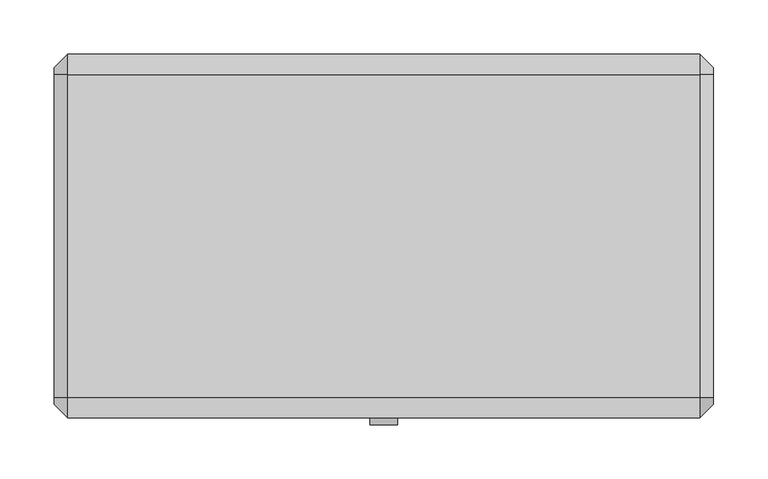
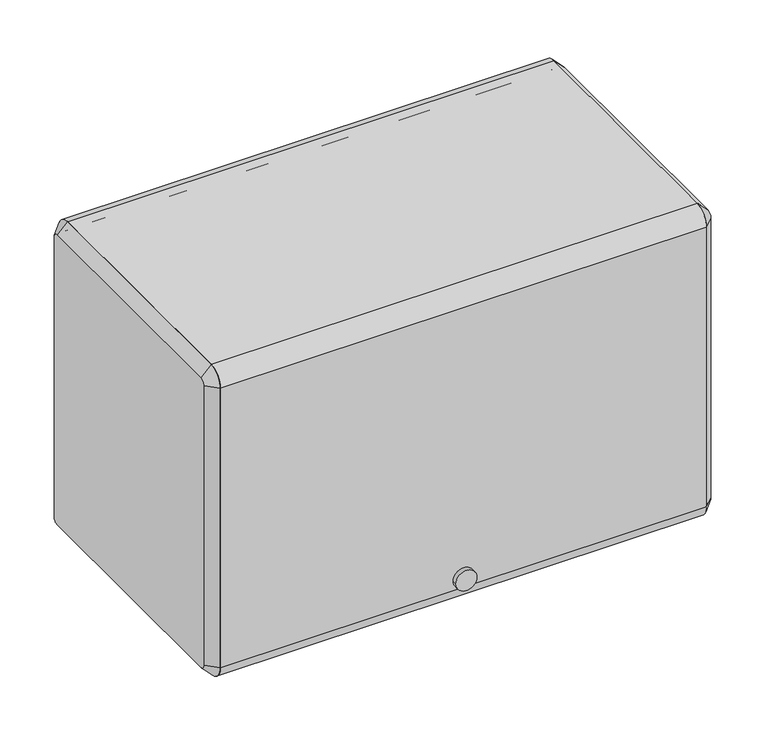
"""IFC4 building model written with IfcOpenShell, lengths in millimetres: furniture geometry."""

import ifcopenshell
import ifcopenshell.guid

model = None  # the IFC model being written
_history = None  # IfcOwnerHistory: only IFC2X3 demands one
_inside = {}  # id of a spatial element -> (the spatial element, [elements in it])
_under = {}  # id of a project, library or spatial element -> (it, [spatial elements below it])
_declared = {}  # id of a project -> (the project, [libraries it declares])
_typed = {}  # id of a type object -> (the type object, [elements of that type])
_made_of = {}  # id of a material, layer set ... -> (it, [elements and type objects made of it])


def new_model(schema):
    """Start an empty IFC model of exactly this schema.

    Asked for "IFC4X3", IfcOpenShell would pick the latest addendum, in which some entities
    have other attributes; the version numbers below select the first issue.
    IFC2X3 requires an IfcOwnerHistory on every rooted entity: one is made here for all.
    """
    global model, _history
    if schema == "IFC4X3":
        model = ifcopenshell.file(schema_version=(4, 3, 0, 0))
    else:
        model = ifcopenshell.file(schema=schema)
    _inside.clear()
    _under.clear()
    _declared.clear()
    _typed.clear()
    _made_of.clear()
    _history = None
    if model.schema == "IFC2X3":
        org = make("IfcOrganization", Name="unknown")
        user = make(
            "IfcPersonAndOrganization",
            ThePerson=make("IfcPerson", FamilyName="unknown"),
            TheOrganization=org,
        )
        app = make(
            "IfcApplication",
            ApplicationDeveloper=org,
            Version="unknown",
            ApplicationFullName="unknown",
            ApplicationIdentifier="unknown",
        )
        _history = make(
            "IfcOwnerHistory",
            OwningUser=user,
            OwningApplication=app,
            ChangeAction="ADDED",
            CreationDate=0,
        )
    return model


def make(cls, **values):
    """One entity of the class cls with the attributes given. An attribute that is None is left unset."""
    return model.create_entity(
        cls, **{name: value for name, value in values.items() if value is not None}
    )


def rooted(cls, **values):
    """An entity with a GlobalId (a new one), such as an element, a storey or a relation."""
    return make(cls, GlobalId=ifcopenshell.guid.new(), OwnerHistory=_history, **values)


def si_unit(unit_type, name, prefix=None):
    """IfcSIUnit, for example si_unit("LENGTHUNIT", "METRE", prefix="MILLI")."""
    return make("IfcSIUnit", UnitType=unit_type, Prefix=prefix, Name=name)


def assignment(units):
    """IfcUnitAssignment: the units of a project."""
    return None if units is None else make("IfcUnitAssignment", Units=units)


def point(xyz):
    """IfcCartesianPoint."""
    return None if xyz is None else make("IfcCartesianPoint", Coordinates=xyz)


def direction(xyz):
    """IfcDirection."""
    return None if xyz is None else make("IfcDirection", DirectionRatios=xyz)


def frame(location, z_axis=None, x_axis=None):
    """IfcAxis2Placement3D, a coordinate frame: its origin and axes. An axis left out is left unset."""
    return make(
        "IfcAxis2Placement3D",
        Location=point(location),
        Axis=direction(z_axis),
        RefDirection=direction(x_axis),
    )


def frame_2d(location, x_axis=None):
    """IfcAxis2Placement2D, a coordinate frame in the plane: its origin and x axis."""
    return make(
        "IfcAxis2Placement2D", Location=point(location), RefDirection=direction(x_axis)
    )


def origin():
    """The frame at (0, 0, 0) with its axes left unset."""
    return frame((0.0, 0.0, 0.0))


def place(relative_to, where):
    """IfcLocalPlacement: puts the frame where relative to a parent placement (None: the world)."""
    return make(
        "IfcLocalPlacement", PlacementRelTo=relative_to, RelativePlacement=where
    )


def context(
    kind, dimensions, precision=None, world=None, true_north=None, identifier=None
):
    """IfcGeometricRepresentationContext, for example the 3D "Model" context."""
    return make(
        "IfcGeometricRepresentationContext",
        ContextIdentifier=identifier,
        ContextType=kind,
        CoordinateSpaceDimension=dimensions,
        Precision=precision,
        WorldCoordinateSystem=world,
        TrueNorth=true_north,
    )


def project(units=None, contexts=None):
    """IfcProject with its units and contexts."""
    return rooted(
        "IfcProject",
        Name="project",
        RepresentationContexts=contexts,
        UnitsInContext=assignment(units),
    )


def spatial(cls, under=None, at=None, **own):
    """A site, building, storey or space (cls), placed at a placement, below another one or the project."""
    s = rooted(cls, ObjectPlacement=at, **own)
    if under is not None:
        _under.setdefault(under.id(), (under, []))[1].append(s)
    return s


def polyline(points):
    """IfcPolyline through the points."""
    return make("IfcPolyline", Points=[point(p) for p in points])


def circle_curve(where, radius):
    """IfcCircle in the frame where."""
    return make("IfcCircle", Position=where, Radius=radius)


def trimmed(basis, trim1, trim2, sense, master):
    """IfcTrimmedCurve: the piece of a basis curve between two trims."""
    return make(
        "IfcTrimmedCurve",
        BasisCurve=basis,
        Trim1=trim1,
        Trim2=trim2,
        SenseAgreement=sense,
        MasterRepresentation=master,
    )


def segment(curve, same_sense, transition):
    """IfcCompositeCurveSegment."""
    return make(
        "IfcCompositeCurveSegment",
        Transition=transition,
        SameSense=same_sense,
        ParentCurve=curve,
    )


def composite_curve(segments, self_intersect=None):
    """IfcCompositeCurve: segments joined end to end."""
    return make("IfcCompositeCurve", Segments=segments, SelfIntersect=self_intersect)


def outline(outer, holes=None, kind="AREA"):
    """IfcArbitraryClosedProfileDef: a profile drawn as a closed curve; with holes, ...WithVoids."""
    if holes is None:
        return make("IfcArbitraryClosedProfileDef", ProfileType=kind, OuterCurve=outer)
    return make(
        "IfcArbitraryProfileDefWithVoids",
        ProfileType=kind,
        OuterCurve=outer,
        InnerCurves=holes,
    )


def extrude(swept, where, along, depth):
    """IfcExtrudedAreaSolid: the profile swept, set in the frame where, extruded along a direction by depth."""
    return make(
        "IfcExtrudedAreaSolid",
        SweptArea=swept,
        Position=where,
        ExtrudedDirection=direction(along),
        Depth=depth,
    )


def shape(context_of_items, identifier, shape_type, items):
    """IfcShapeRepresentation: the items that make up one representation, for example the "Body"."""
    return make(
        "IfcShapeRepresentation",
        ContextOfItems=context_of_items,
        RepresentationIdentifier=identifier,
        RepresentationType=shape_type,
        Items=items,
    )


def source(mapping_origin, context_of_items, identifier, shape_type, items):
    """IfcRepresentationMap: a shape defined once, which mapped items show again and again."""
    return make(
        "IfcRepresentationMap",
        MappingOrigin=mapping_origin,
        MappedRepresentation=shape(context_of_items, identifier, shape_type, items),
    )


def transform(
    local_origin,
    x_axis=None,
    y_axis=None,
    z_axis=None,
    scale=None,
    scale2=None,
    scale3=None,
    uniform=True,
):
    """IfcCartesianTransformationOperator3D, or its non-uniform kind. x_axis, y_axis, z_axis: its Axis1, 2, 3."""
    if uniform:
        return make(
            "IfcCartesianTransformationOperator3D",
            Axis1=direction(x_axis),
            Axis2=direction(y_axis),
            LocalOrigin=point(local_origin),
            Scale=scale,
            Axis3=direction(z_axis),
        )
    return make(
        "IfcCartesianTransformationOperator3DnonUniform",
        Axis1=direction(x_axis),
        Axis2=direction(y_axis),
        LocalOrigin=point(local_origin),
        Scale=scale,
        Axis3=direction(z_axis),
        Scale2=scale2,
        Scale3=scale3,
    )


def mapped(mapping_source, mapping_target):
    """IfcMappedItem: shows the shape of a source again, moved by a transform."""
    return make(
        "IfcMappedItem", MappingSource=mapping_source, MappingTarget=mapping_target
    )


def made_of(thing, what):
    """Note that an element or type object is made of a material, layer set ...; save() writes the relation."""
    if what is not None:
        _made_of.setdefault(what.id(), (what, []))[1].append(thing)
    return thing


def element(
    cls,
    number,
    at=None,
    inside=None,
    cuts=None,
    type_object=None,
    material=None,
    context=None,
    identifier="Body",
    shape_type=None,
    held_by="IfcProductDefinitionShape",
    body=None,
    shapes=None,
    **own,
):
    """One element of the class cls, such as IfcWall. Its Tag is "e" and its number.

    at: its placement. inside: the storey or other place that contains it. cuts: it is an
    opening in that element (IfcRelVoidsElement). A single representation is given by context,
    identifier, shape_type and body (its items); several are given by shapes. held_by: the class
    of the entity that holds the representations. save() writes the other relations.
    """
    e = rooted(cls, Tag="e%d" % number, ObjectPlacement=at, **own)
    if body is not None:
        shapes = [shape(context, identifier, shape_type, body)]
    if shapes is not None:
        e.Representation = make(held_by, Representations=shapes)
    if inside is not None:
        _inside.setdefault(inside.id(), (inside, []))[1].append(e)
    if cuts is not None:
        rooted(
            "IfcRelVoidsElement", RelatingBuildingElement=cuts, RelatedOpeningElement=e
        )
    if type_object is not None:
        _typed.setdefault(type_object.id(), (type_object, []))[1].append(e)
    return made_of(e, material)


def aggregate(whole, parts):
    """IfcRelAggregates: a whole, such as a stair, and the parts it consists of."""
    return rooted("IfcRelAggregates", RelatingObject=whole, RelatedObjects=parts)


def save(model, path):
    """Write the relations noted so far, then the file.

    IfcRelAggregates (storeys below a building ...), IfcRelContainedInSpatialStructure (elements
    in a storey), IfcRelDefinesByType, IfcRelAssociatesMaterial and IfcRelDeclares: one each for
    every whole, place, type object, material and project.
    """
    for whole, parts in _under.values():
        aggregate(whole, parts)
    for where, things in _inside.values():
        rooted(
            "IfcRelContainedInSpatialStructure",
            RelatedElements=things,
            RelatingStructure=where,
        )
    for kind, things in _typed.values():
        rooted("IfcRelDefinesByType", RelatedObjects=things, RelatingType=kind)
    for what, things in _made_of.values():
        rooted("IfcRelAssociatesMaterial", RelatedObjects=things, RelatingMaterial=what)
    for by, libraries in _declared.values():
        rooted("IfcRelDeclares", RelatingContext=by, RelatedDefinitions=libraries)
    model.write(path)


def plane_surface(at):
    """IfcPlane: the flat surface through the origin of the frame at, square to its z axis."""
    return make("IfcPlane", Position=at)


def revolved_surface(curve, axis_point, axis_direction):
    """IfcSurfaceOfRevolution: the curve turned about the line through axis_point along axis_direction."""
    return make(
        "IfcSurfaceOfRevolution",
        SweptCurve=make("IfcArbitraryOpenProfileDef", ProfileType="CURVE", Curve=curve),
        AxisPosition=make("IfcAxis1Placement", Location=point(axis_point), Axis=direction(axis_direction)),
    )


def advanced_brep(points, edges, surfaces, faces):
    """IfcAdvancedBrep: a solid bounded by faces that lie on surfaces and meet in shared edges.

    An edge is (start, end): straight between two places in points (the first is 0);
    or (start, end, curve); or (start, end, curve, False) where it runs against its curve.
    A face is (place in surfaces, loops), or (place, loops, False) where it looks against
    its surface's normal. A loop lists edges by number (the first is 1), with a minus sign
    where the edge is run from its end to its start. The first loop is the outer one.
    """
    corners = [point(p) for p in points]
    vertices = [make("IfcVertexPoint", VertexGeometry=c) for c in corners]
    made = []
    for start, end, *more in edges:
        made.append(
            make(
                "IfcEdgeCurve",
                EdgeStart=vertices[start],
                EdgeEnd=vertices[end],
                EdgeGeometry=more[0] if more else make("IfcPolyline", Points=[corners[start], corners[end]]),
                SameSense=more[1] if len(more) > 1 else True,
            )
        )
    hull = []
    for where, loops, *sense in faces:
        bounds = []
        for j, loop in enumerate(loops):
            ring = [make("IfcOrientedEdge", EdgeElement=made[abs(k) - 1], Orientation=k > 0) for k in loop]
            bounds.append(
                make(
                    "IfcFaceOuterBound" if j == 0 else "IfcFaceBound",
                    Bound=make("IfcEdgeLoop", EdgeList=ring),
                    Orientation=True,
                )
            )
        hull.append(make("IfcAdvancedFace", Bounds=bounds, FaceSurface=surfaces[where], SameSense=sense[0] if sense else True))
    return make("IfcAdvancedBrep", Outer=make("IfcClosedShell", CfsFaces=hull))


def furniture_60762688(model_context):
    return source(origin(), model_context, "Body", "SolidModel", [
        extrude(outline(composite_curve([segment(polyline([(-136.525, 2019.3), (-136.525, 2032.0), (161.925, 2032.0)]), True, "CONTINUOUS"), segment(trimmed(circle_curve(frame_2d((161.925, 2012.95)), 19.05), [point((161.925, 2032.0))], [point((180.975, 2012.95))], False, "CARTESIAN"), True, "CONTINUOUS"), segment(polyline([(180.975, 2012.95), (168.275, 2012.95)]), True, "CONTINUOUS"), segment(trimmed(circle_curve(frame_2d((161.925, 2012.95)), 6.35), [point((168.275, 2012.95))], [point((161.925, 2019.3))], True, "CARTESIAN"), True, "CONTINUOUS"), segment(polyline([(161.925, 2019.3), (-136.525, 2019.3)]), True, "CONTINUOUS")], self_intersect=False)), frame((-292.1, 0.0, 0.0), z_axis=(1.0, 0.0, 0.0), x_axis=(0.0, 1.0, 0.0)), (0.0, 0.0, 1.0), 584.2),
        extrude(outline(composite_curve([segment(trimmed(circle_curve(frame_2d((-136.525, 2012.95)), 19.05), [point((-155.575, 2012.95))], [point((-136.525, 2032.0))], False, "CARTESIAN"), True, "CONTINUOUS"), segment(polyline([(-136.525, 2032.0), (-136.525, 2019.3)]), True, "CONTINUOUS"), segment(trimmed(circle_curve(frame_2d((-136.525, 2012.95)), 6.35), [point((-136.525, 2019.3))], [point((-142.875, 2012.95))], True, "CARTESIAN"), True, "CONTINUOUS"), segment(polyline([(-142.875, 2012.95), (-142.875, 1657.35)]), True, "CONTINUOUS"), segment(trimmed(circle_curve(frame_2d((-136.525, 1657.35)), 6.35), [point((-142.875, 1657.35))], [point((-136.525, 1651.0))], True, "CARTESIAN"), True, "CONTINUOUS"), segment(polyline([(-136.525, 1651.0), (-136.525, 1638.3)]), True, "CONTINUOUS"), segment(trimmed(circle_curve(frame_2d((-136.525, 1657.35)), 19.05), [point((-136.525, 1638.3))], [point((-155.575, 1657.35))], False, "CARTESIAN"), True, "CONTINUOUS"), segment(polyline([(-155.575, 1657.35), (-155.575, 2012.95)]), True, "CONTINUOUS")], self_intersect=False)), frame((-292.1, 0.0, 0.0), z_axis=(1.0, 0.0, 0.0), x_axis=(0.0, 1.0, 0.0)), (0.0, 0.0, 1.0), 584.2),
        extrude(outline(composite_curve([segment(trimmed(circle_curve(frame_2d((1670.0118906, 0.0201199)), 12.7253951), [point((1670.0118906, 12.745515))], [point((1670.0118906, -12.7052752))], False, "CARTESIAN"), True, "CONTINUOUS"), segment(trimmed(circle_curve(frame_2d((1670.0118906, 0.0201199)), 12.7253951), [point((1670.0118906, -12.7052752))], [point((1670.0118906, 12.745515))], False, "CARTESIAN"), True, "CONTINUOUS")], self_intersect=False)), frame((0.0, -161.925, 0.0), z_axis=(0.0, 1.0, 0.0), x_axis=(0.0, 0.0, 1.0)), (0.0, 0.0, 1.0), 6.35),
        extrude(outline(polyline([(-136.525, 1676.4), (161.925, 1676.4), (161.925, 1714.5), (174.625, 1714.5), (174.625, 1711.325), (165.1, 1711.325), (165.1, 1673.225), (-133.35, 1673.225), (-133.35, 1654.175), (-136.525, 1654.175), (-136.525, 1676.4)])), frame((-292.1, 0.0, 0.0), z_axis=(1.0, 0.0, 0.0), x_axis=(0.0, 1.0, 0.0)), (0.0, 0.0, 1.0), 584.2),
        advanced_brep(
        [(304.8, 161.925, 2019.3), (304.8, -136.525, 2019.3), (304.8, -142.875, 2012.95), (304.8, -142.875, 1657.35), (304.8, -136.525, 1651.0), (304.8, 161.925, 1651.0), (304.8, 168.275, 1657.35), (304.8, 168.275, 2012.95), (292.1, 161.925, 2032.0), (292.1, 180.975, 2012.95), (292.1, 180.975, 1657.35), (292.1, 161.925, 1638.3), (292.1, -136.525, 1638.3), (292.1, -155.575, 1657.35), (292.1, -155.575, 2012.95), (292.1, -136.525, 2032.0)],
        [
            (0, 1),
            (1, 2, circle_curve(frame((304.8, -136.525, 2012.95), z_axis=(1.0, 6.490807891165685e-12, -6.60804744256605e-12), x_axis=(6.608048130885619e-12, 0.0, 1.0)), 6.35)),
            (2, 3),
            (3, 4, circle_curve(frame((304.8, -136.525, 1657.35), z_axis=(1.0, 3.3733016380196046e-12, 3.3679725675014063e-12), x_axis=(3.3733436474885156e-12, -1.0, 0.0)), 6.35)),
            (4, 5),
            (5, 6, circle_curve(frame((304.8, 161.925, 1657.35), z_axis=(1.0, 3.378630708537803e-12, -3.3892888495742e-12), x_axis=(-3.3893585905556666e-12, 0.0, -1.0)), 6.35)),
            (6, 7),
            (7, 0, circle_curve(frame((304.8, 161.925, 2012.95), z_axis=(1.0, 6.482814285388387e-12, 6.373568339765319e-12), x_axis=(-6.482754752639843e-12, 1.0, 0.0)), 6.35)),
            (8, 9, circle_curve(frame((292.1, 161.925, 2012.95), z_axis=(-1.0, -6.482814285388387e-12, -6.373568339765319e-12), x_axis=(-6.482754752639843e-12, 1.0, 0.0)), 19.05)),
            (9, 10),
            (10, 11, circle_curve(frame((292.1, 161.925, 1657.35), z_axis=(-1.0, -3.378630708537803e-12, 3.3892888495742e-12), x_axis=(-3.3893585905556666e-12, 0.0, -1.0)), 19.05)),
            (11, 12),
            (12, 13, circle_curve(frame((292.1, -136.525, 1657.35), z_axis=(-1.0, -3.3733016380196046e-12, -3.3679725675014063e-12), x_axis=(3.3733436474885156e-12, -1.0, 0.0)), 19.05)),
            (13, 14),
            (14, 15, circle_curve(frame((292.1, -136.525, 2012.95), z_axis=(-1.0, -6.490807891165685e-12, 6.60804744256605e-12), x_axis=(6.608048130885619e-12, 0.0, 1.0)), 19.05)),
            (15, 8),
            (15, 1),
            (0, 8),
            (14, 2),
            (13, 3),
            (12, 4),
            (11, 5),
            (10, 6),
            (9, 7),
        ],
        [
            plane_surface(frame((304.8, 12.7, 1835.15), z_axis=(1.0, 0.0, 0.0), x_axis=(0.0, -1.0, 0.0))),
            plane_surface(frame((292.1, 12.7, 1835.15), z_axis=(-1.0, 0.0, 0.0), x_axis=(0.0, -1.0, 0.0))),
            plane_surface(frame((292.1, 12.7, 2032.0), z_axis=(0.7071067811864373, 0.0, 0.7071067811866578), x_axis=(0.0, -1.0, 0.0))),
            revolved_surface(polyline([(304.80000000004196, -136.525, 2019.2999999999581), (292.1, -136.525, 2032.0)]), (311.15, -136.525, 2012.95), (-1.0, -6.490807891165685e-12, 6.60804744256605e-12)),
            plane_surface(frame((292.1, -155.575, 1835.15), z_axis=(0.707106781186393, -0.707106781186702, 0.0), x_axis=(0.0, 0.0, -1.0))),
            revolved_surface(polyline([(304.80000000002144, -142.87499999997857, 1657.35), (292.1, -155.575, 1657.35)]), (311.15, -136.525, 1657.35), (-1.0, -3.3733016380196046e-12, -3.3679725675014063e-12)),
            plane_surface(frame((292.1, 12.7, 1638.3), z_axis=(0.7071067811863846, 0.0, -0.7071067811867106), x_axis=(0.0, 1.0, 0.0))),
            revolved_surface(polyline([(304.8, 161.925, 1651.0), (292.09999999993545, 161.925, 1638.2999999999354)]), (311.15, 161.925, 1657.35), (-1.0, -3.378630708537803e-12, 3.3892888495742e-12)),
            plane_surface(frame((292.1, 180.975, 1835.15), z_axis=(0.707106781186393, 0.707106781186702, 0.0), x_axis=(0.0, 0.0, 1.0))),
            revolved_surface(polyline([(304.8, 168.27499999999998, 2012.95), (292.0999999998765, 180.9750000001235, 2012.95)]), (311.15, 161.925, 2012.95), (-1.0, -6.482814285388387e-12, -6.373568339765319e-12)),
        ],
        [
            (0, [[1, 2, 3, 4, 5, 6, 7, 8]]),
            (1, [[9, 10, 11, 12, 13, 14, 15, 16]]),
            (2, [[-16, 17, -1, 18]]),
            (3, [[-15, 19, -2, -17]]),
            (4, [[-14, 20, -3, -19]]),
            (5, [[-13, 21, -4, -20]]),
            (6, [[-12, 22, -5, -21]]),
            (7, [[-11, 23, -6, -22]]),
            (8, [[-10, 24, -7, -23]]),
            (9, [[-9, -18, -8, -24]]),
        ],
    ),
        advanced_brep(
        [(-304.8, -136.525, 2019.3), (-304.8, 161.925, 2019.3), (-304.8, 168.275, 2012.95), (-304.8, 168.275, 1657.35), (-304.8, 161.925, 1651.0), (-304.8, -136.525, 1651.0), (-304.8, -142.875, 1657.35), (-304.8, -142.875, 2012.95), (-292.1, -136.525, 2032.0), (-292.1, -155.575, 2012.95), (-292.1, -155.575, 1657.35), (-292.1, -136.525, 1638.3), (-292.1, 161.925, 1638.3), (-292.1, 180.975, 1657.35), (-292.1, 180.975, 2012.95), (-292.1, 161.925, 2032.0)],
        [
            (0, 1),
            (1, 2, circle_curve(frame((-304.8, 161.925, 2012.95), z_axis=(-1.0, 3.3626434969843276e-12, 3.453237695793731e-12), x_axis=(3.4532613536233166e-12, 0.0, 1.0)), 6.35)),
            (2, 3),
            (3, 4, circle_curve(frame((-304.8, 161.925, 1657.35), z_axis=(-1.0, 0.0, 0.0), x_axis=(0.0, 1.0, 0.0)), 6.35)),
            (4, 5),
            (5, 6, circle_curve(frame((-304.8, -136.525, 1657.35), z_axis=(-1.0, 0.0, 0.0), x_axis=(0.0, 0.0, -1.0)), 6.35)),
            (6, 7),
            (7, 0, circle_curve(frame((-304.8, -136.525, 2012.95), z_axis=(-1.0, 3.369304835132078e-12, -3.261391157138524e-12), x_axis=(-3.36926140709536e-12, -1.0, 0.0)), 6.35)),
            (8, 9, circle_curve(frame((-292.1, -136.525, 2012.95), z_axis=(1.0, -3.369304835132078e-12, 3.261391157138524e-12), x_axis=(-3.36926140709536e-12, -1.0, 0.0)), 19.05)),
            (9, 10),
            (10, 11, circle_curve(frame((-292.1, -136.525, 1657.35), z_axis=(1.0, 0.0, 0.0), x_axis=(0.0, 0.0, -1.0)), 19.05)),
            (11, 12),
            (12, 13, circle_curve(frame((-292.1, 161.925, 1657.35), z_axis=(1.0, 0.0, 0.0), x_axis=(0.0, 1.0, 0.0)), 19.05)),
            (13, 14),
            (14, 15, circle_curve(frame((-292.1, 161.925, 2012.95), z_axis=(1.0, -3.3626434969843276e-12, -3.453237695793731e-12), x_axis=(3.4532613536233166e-12, 0.0, 1.0)), 19.05)),
            (15, 8),
            (15, 1),
            (0, 8),
            (14, 2),
            (13, 3),
            (12, 4),
            (11, 5),
            (10, 6),
            (9, 7),
        ],
        [
            plane_surface(frame((-304.8, 12.7, 1835.15), z_axis=(-1.0, 0.0, 0.0), x_axis=(0.0, -1.0, 0.0))),
            plane_surface(frame((-292.1, 12.7, 1835.15), z_axis=(1.0, 0.0, 0.0), x_axis=(0.0, -1.0, 0.0))),
            plane_surface(frame((-292.1, 12.7, 2032.0), z_axis=(-0.7071067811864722, 0.0, 0.707106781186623), x_axis=(0.0, 1.0, 0.0))),
            revolved_surface(polyline([(-304.8, 161.925, 2019.3), (-292.09999999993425, 161.925, 2032.0000000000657)]), (-311.15, 161.925, 2012.95), (1.0, -3.3626434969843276e-12, -3.453237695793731e-12)),
            plane_surface(frame((-292.1, 180.975, 1835.15), z_axis=(-0.7071067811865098, 0.7071067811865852, 0.0), x_axis=(0.0, 0.0, -1.0))),
            revolved_surface(polyline([(-304.8, 168.27499999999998, 1657.35), (-292.1, 180.975, 1657.35)]), (-311.15, 161.925, 1657.35), (1.0, 0.0, 0.0)),
            plane_surface(frame((-292.1, 12.7, 1638.3), z_axis=(-0.7071067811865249, 0.0, -0.7071067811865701), x_axis=(0.0, -1.0, 0.0))),
            revolved_surface(polyline([(-304.8, -136.525, 1651.0), (-292.1, -136.525, 1638.3)]), (-311.15, -136.525, 1657.35), (1.0, 0.0, 0.0)),
            plane_surface(frame((-292.1, -155.575, 1835.15), z_axis=(-0.7071067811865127, -0.7071067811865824, 0.0), x_axis=(0.0, 0.0, 1.0))),
            revolved_surface(polyline([(-304.8000000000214, -142.8749999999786, 2012.95), (-292.1, -155.575, 2012.95)]), (-311.15, -136.525, 2012.95), (1.0, -3.369304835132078e-12, 3.261391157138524e-12)),
        ],
        [
            (0, [[1, 2, 3, 4, 5, 6, 7, 8]]),
            (1, [[9, 10, 11, 12, 13, 14, 15, 16]]),
            (2, [[-16, 17, -1, 18]]),
            (3, [[-15, 19, -2, -17]]),
            (4, [[-14, 20, -3, -19]]),
            (5, [[-13, 21, -4, -20]]),
            (6, [[-12, 22, -5, -21]]),
            (7, [[-11, 23, -6, -22]]),
            (8, [[-10, 24, -7, -23]]),
            (9, [[-9, -18, -8, -24]]),
        ],
    ),
    ])


if __name__ == "__main__":
    model = new_model("IFC4")
    model_context = context("Model", 3, world=origin())
    ifc_project = project(units=[si_unit("LENGTHUNIT", "METRE", prefix="MILLI")], contexts=[model_context])
    site = spatial("IfcSite", under=ifc_project)
    building = spatial("IfcBuilding", under=site)
    placement = place(None, origin())
    furniture_shape = furniture_60762688(model_context)
    element("IfcFurniture", 1, ObjectType="HermanMiller_ActionOffice_A3352_B-StyleFlipperDoorUnit : 15 1/2\"H x 13\"D x 24\"W", at=placement, inside=building, context=model_context, shape_type="MappedRepresentation", body=[
        mapped(furniture_shape, transform((0.0, 0.0, 0.0), x_axis=(1.0, 0.0, 0.0), y_axis=(0.0, 1.0, 0.0), z_axis=(0.0, 0.0, 1.0))),
    ])
    save(model, "model.ifc")
